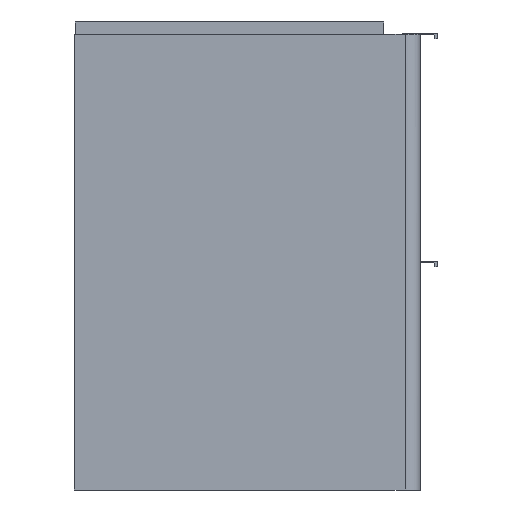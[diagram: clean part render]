
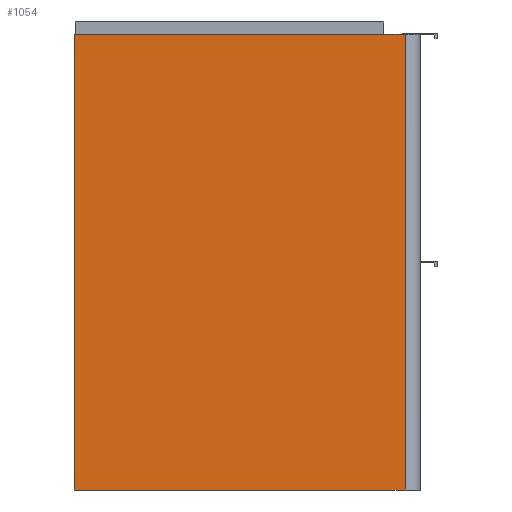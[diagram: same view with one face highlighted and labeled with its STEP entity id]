
A CAD part, left-side view. The second image highlights one B-rep face of the part: STEP entity #1054.
In plain terms, the highlighted planar face has unit normal (-1, 0, 0).
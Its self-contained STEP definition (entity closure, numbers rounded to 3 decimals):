
#1054=ADVANCED_FACE('',(#1649),#10891,.T.);
#1649=FACE_OUTER_BOUND('',#2338,.T.);
#2338=EDGE_LOOP('',(#5717,#5718,#5719,#5720));
#5717=ORIENTED_EDGE('',*,*,#7490,.F.);
#5718=ORIENTED_EDGE('',*,*,#7497,.T.);
#5719=ORIENTED_EDGE('',*,*,#7498,.T.);
#5720=ORIENTED_EDGE('',*,*,#7493,.T.);
#7490=EDGE_CURVE('',#10433,#10434,#8776,.T.);
#7493=EDGE_CURVE('',#10436,#10434,#8778,.T.);
#7497=EDGE_CURVE('',#10433,#10439,#8782,.T.);
#7498=EDGE_CURVE('',#10439,#10436,#8783,.T.);
#8776=B_SPLINE_CURVE_WITH_KNOTS('',1,(#20342,#20343),.UNSPECIFIED.,.F.,
 .F.,(2,2),(0.,515.),.UNSPECIFIED.);
#8778=B_SPLINE_CURVE_WITH_KNOTS('',1,(#20349,#20350),.UNSPECIFIED.,.F.,
 .F.,(2,2),(-374.,0.),.UNSPECIFIED.);
#8782=B_SPLINE_CURVE_WITH_KNOTS('',1,(#20357,#20358),.UNSPECIFIED.,.F.,
 .F.,(2,2),(-374.,0.),.UNSPECIFIED.);
#8783=B_SPLINE_CURVE_WITH_KNOTS('',1,(#20359,#20360),.UNSPECIFIED.,.F.,
 .F.,(2,2),(-515.,0.),.UNSPECIFIED.);
#10433=VERTEX_POINT('',#20330);
#10434=VERTEX_POINT('',#20331);
#10436=VERTEX_POINT('',#20333);
#10439=VERTEX_POINT('',#20336);
#10891=PLANE('',#12003);
#12003=AXIS2_PLACEMENT_3D('',#20324,#12572,$);
#12572=DIRECTION('',(-1.,0.,0.));
#20324=CARTESIAN_POINT('',(-317.25,233.02,-51.62));
#20330=CARTESIAN_POINT('',(-317.25,-178.5,515.));
#20331=CARTESIAN_POINT('',(-317.25,-178.5,0.));
#20333=CARTESIAN_POINT('',(-317.25,195.5,0.));
#20336=CARTESIAN_POINT('',(-317.25,195.5,515.));
#20342=CARTESIAN_POINT('',(-317.25,-178.5,515.));
#20343=CARTESIAN_POINT('',(-317.25,-178.5,0.));
#20349=CARTESIAN_POINT('',(-317.25,195.5,0.));
#20350=CARTESIAN_POINT('',(-317.25,-178.5,0.));
#20357=CARTESIAN_POINT('',(-317.25,-178.5,515.));
#20358=CARTESIAN_POINT('',(-317.25,195.5,515.));
#20359=CARTESIAN_POINT('',(-317.25,195.5,515.));
#20360=CARTESIAN_POINT('',(-317.25,195.5,0.));
